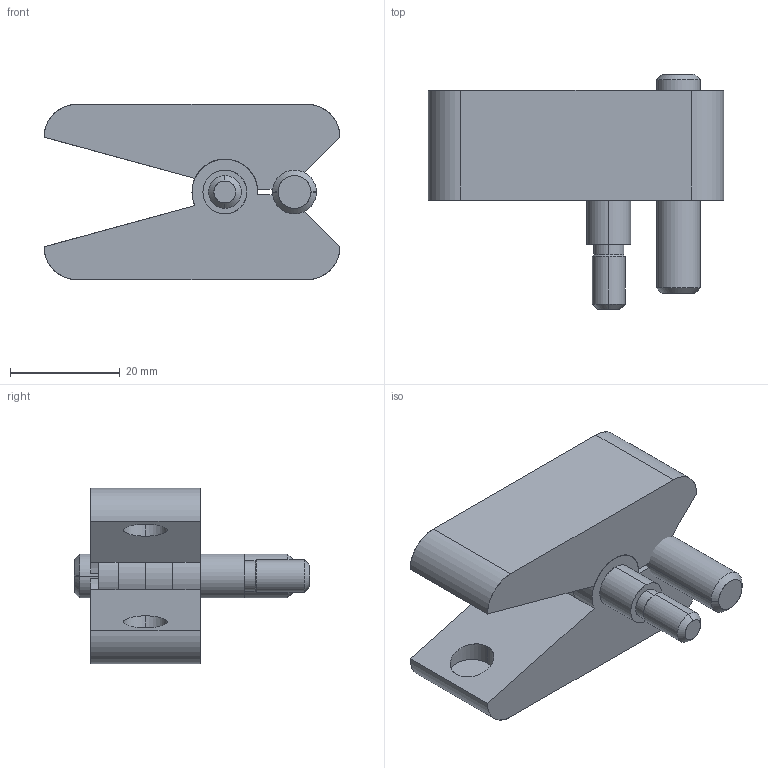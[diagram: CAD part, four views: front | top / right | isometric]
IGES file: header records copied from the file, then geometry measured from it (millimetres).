
Start section: SolidWorks IGES file using analytic representation for surfaces
Global section: file name: D:\Cleonir_particular\Matripeças\Trava de Gaveta\TRV20RT.IGS; native system: SolidWorks 2013; preprocessor: SolidWorks 2013; author: Cleonir; date: 130307.132654; units: millimetre
Bounding box: 54 x 43 x 32 mm (x, y, z)
Surface area: 10501.9 mm2 (no closed solid volume)
Topology: 0 solids, 0 shells, 337 faces, 4473 edges, 4473 vertices
Faces by surface type: bspline 279, revolution 58
